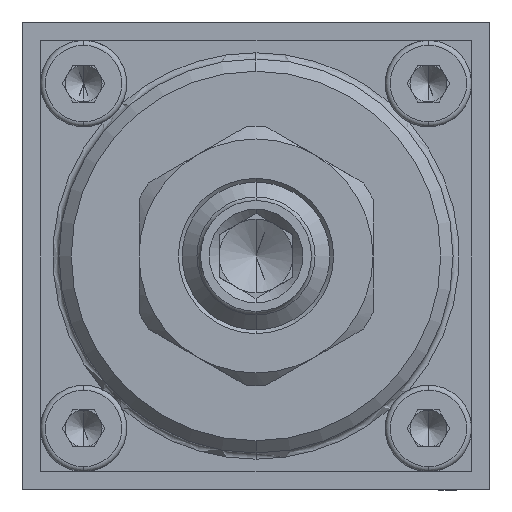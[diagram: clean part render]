
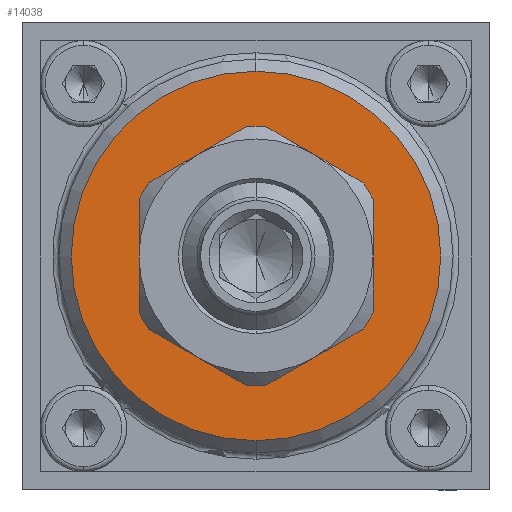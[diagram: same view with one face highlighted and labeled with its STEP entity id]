
A CAD part, left-side view. The second image highlights one B-rep face of the part: STEP entity #14038.
In plain terms, the highlighted planar face has unit normal (-1, 0, 0).
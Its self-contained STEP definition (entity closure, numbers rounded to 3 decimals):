
#192 = VERTEX_POINT ( 'NONE', #17713 ) ;
#423 = EDGE_LOOP ( 'NONE', ( #2906, #2622 ) ) ;
#508 = ORIENTED_EDGE ( 'NONE', *, *, #13736, .F. ) ;
#770 = ORIENTED_EDGE ( 'NONE', *, *, #8808, .F. ) ;
#1059 = ORIENTED_EDGE ( 'NONE', *, *, #10248, .F. ) ;
#1171 = DIRECTION ( 'NONE',  ( -1., 0., 0. ) ) ;
#1297 = DIRECTION ( 'NONE',  ( 0., 0., 1. ) ) ;
#1335 = DIRECTION ( 'NONE',  ( -1., 0., 0. ) ) ;
#1433 = DIRECTION ( 'NONE',  ( -1., 0., 0. ) ) ;
#1460 = CARTESIAN_POINT ( 'NONE',  ( -68.8, 0., 0. ) ) ;
#1519 = AXIS2_PLACEMENT_3D ( 'NONE', #16539, #16635, #16752 ) ;
#1657 = EDGE_CURVE ( 'NONE', #15411, #10142, #3699, .T. ) ;
#1882 = AXIS2_PLACEMENT_3D ( 'NONE', #1460, #1433, #1297 ) ;
#1967 = CIRCLE ( 'NONE', #17304, 9.5 ) ;
#2108 = ORIENTED_EDGE ( 'NONE', *, *, #3831, .F. ) ;
#2234 = EDGE_CURVE ( 'NONE', #12038, #192, #20391, .T. ) ;
#2622 = ORIENTED_EDGE ( 'NONE', *, *, #1657, .T. ) ;
#2906 = ORIENTED_EDGE ( 'NONE', *, *, #16427, .T. ) ;
#3038 = CARTESIAN_POINT ( 'NONE',  ( -68.8, 0., 15. ) ) ;
#3609 = DIRECTION ( 'NONE',  ( -1., 0., 0. ) ) ;
#3699 = CIRCLE ( 'NONE', #1882, 15. ) ;
#3770 = DIRECTION ( 'NONE',  ( 1., 0., 0. ) ) ;
#3831 = EDGE_CURVE ( 'NONE', #13182, #7468, #17508, .T. ) ;
#4120 = AXIS2_PLACEMENT_3D ( 'NONE', #13628, #3609, #15339 ) ;
#5002 = DIRECTION ( 'NONE',  ( -1., 0., 0. ) ) ;
#6136 = CARTESIAN_POINT ( 'NONE',  ( -68.8, 4.75, -8.227 ) ) ;
#6418 = CARTESIAN_POINT ( 'NONE',  ( -68.8, 9.5, 0. ) ) ;
#7165 = EDGE_CURVE ( 'NONE', #7468, #12038, #18351, .T. ) ;
#7468 = VERTEX_POINT ( 'NONE', #12235 ) ;
#8808 = EDGE_CURVE ( 'NONE', #21327, #12828, #19944, .T. ) ;
#9201 = AXIS2_PLACEMENT_3D ( 'NONE', #18404, #17952, #16573 ) ;
#9530 = AXIS2_PLACEMENT_3D ( 'NONE', #11381, #1335, #13077 ) ;
#9669 = DIRECTION ( 'NONE',  ( -1., 0., 0. ) ) ;
#10135 = CARTESIAN_POINT ( 'NONE',  ( -68.8, 4.75, 8.227 ) ) ;
#10142 = VERTEX_POINT ( 'NONE', #3038 ) ;
#10224 = FACE_OUTER_BOUND ( 'NONE', #423, .T. ) ;
#10248 = EDGE_CURVE ( 'NONE', #12828, #13182, #1967, .T. ) ;
#11241 = CARTESIAN_POINT ( 'NONE',  ( -68.8, 0., 0. ) ) ;
#11381 = CARTESIAN_POINT ( 'NONE',  ( -68.8, 0., 0. ) ) ;
#11510 = CARTESIAN_POINT ( 'NONE',  ( -68.8, -9.5, 0. ) ) ;
#12038 = VERTEX_POINT ( 'NONE', #11510 ) ;
#12235 = CARTESIAN_POINT ( 'NONE',  ( -68.8, -4.75, -8.227 ) ) ;
#12828 = VERTEX_POINT ( 'NONE', #6418 ) ;
#12942 = DIRECTION ( 'NONE',  ( 0., -1., 0. ) ) ;
#13077 = DIRECTION ( 'NONE',  ( 0., -1., 0. ) ) ;
#13182 = VERTEX_POINT ( 'NONE', #6136 ) ;
#13628 = CARTESIAN_POINT ( 'NONE',  ( -68.8, 0., 0. ) ) ;
#13736 = EDGE_CURVE ( 'NONE', #192, #21327, #16792, .T. ) ;
#13767 = CARTESIAN_POINT ( 'NONE',  ( -68.8, 0., 0. ) ) ;
#13788 = EDGE_LOOP ( 'NONE', ( #2108, #1059, #770, #508, #21460, #21198 ) ) ;
#14038 = ADVANCED_FACE ( 'NONE', ( #10224, #14162 ), #17067, .F. ) ;
#14162 = FACE_BOUND ( 'NONE', #13788, .T. ) ;
#15063 = CARTESIAN_POINT ( 'NONE',  ( -68.8, 0., 0. ) ) ;
#15339 = DIRECTION ( 'NONE',  ( 0., 0., 1. ) ) ;
#15411 = VERTEX_POINT ( 'NONE', #18793 ) ;
#15478 = DIRECTION ( 'NONE',  ( 0., 0., 1. ) ) ;
#16050 = CIRCLE ( 'NONE', #4120, 15. ) ;
#16427 = EDGE_CURVE ( 'NONE', #10142, #15411, #16050, .T. ) ;
#16539 = CARTESIAN_POINT ( 'NONE',  ( -68.8, 0., 0. ) ) ;
#16573 = DIRECTION ( 'NONE',  ( 0., -1., 0. ) ) ;
#16635 = DIRECTION ( 'NONE',  ( -1., 0., 0. ) ) ;
#16698 = DIRECTION ( 'NONE',  ( 0., -1., 0. ) ) ;
#16752 = DIRECTION ( 'NONE',  ( 0., -1., 0. ) ) ;
#16792 = CIRCLE ( 'NONE', #17201, 9.5 ) ;
#17067 = PLANE ( 'NONE',  #17506 ) ;
#17201 = AXIS2_PLACEMENT_3D ( 'NONE', #19735, #9669, #21414 ) ;
#17304 = AXIS2_PLACEMENT_3D ( 'NONE', #15063, #5002, #16698 ) ;
#17506 = AXIS2_PLACEMENT_3D ( 'NONE', #13767, #3770, #15478 ) ;
#17508 = CIRCLE ( 'NONE', #1519, 9.5 ) ;
#17713 = CARTESIAN_POINT ( 'NONE',  ( -68.8, -4.75, 8.227 ) ) ;
#17952 = DIRECTION ( 'NONE',  ( -1., 0., 0. ) ) ;
#18351 = CIRCLE ( 'NONE', #20555, 9.5 ) ;
#18404 = CARTESIAN_POINT ( 'NONE',  ( -68.8, 0., 0. ) ) ;
#18793 = CARTESIAN_POINT ( 'NONE',  ( -68.8, 0., -15. ) ) ;
#19735 = CARTESIAN_POINT ( 'NONE',  ( -68.8, 0., 0. ) ) ;
#19944 = CIRCLE ( 'NONE', #9530, 9.5 ) ;
#20391 = CIRCLE ( 'NONE', #9201, 9.5 ) ;
#20555 = AXIS2_PLACEMENT_3D ( 'NONE', #11241, #1171, #12942 ) ;
#21198 = ORIENTED_EDGE ( 'NONE', *, *, #7165, .F. ) ;
#21327 = VERTEX_POINT ( 'NONE', #10135 ) ;
#21414 = DIRECTION ( 'NONE',  ( 0., -1., 0. ) ) ;
#21460 = ORIENTED_EDGE ( 'NONE', *, *, #2234, .F. ) ;
